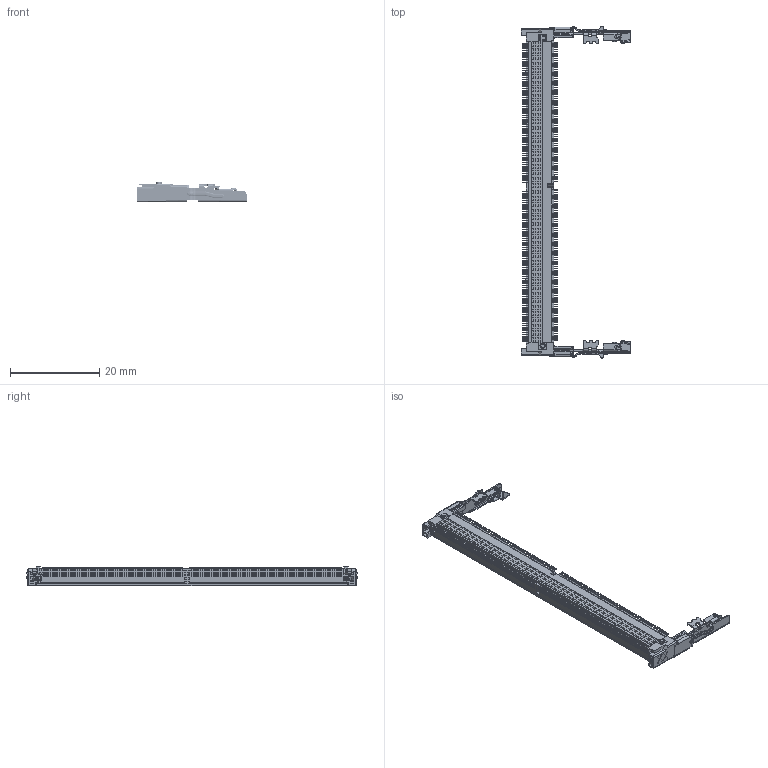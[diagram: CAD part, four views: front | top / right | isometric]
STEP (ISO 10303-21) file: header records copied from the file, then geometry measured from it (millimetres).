
FILE_DESCRIPTION((''),'2;1');
FILE_NAME('D5ARX-262XX-XX40X','2021-12-14T16:16:19',('MichaelSun'),(''),'CREO PARAMETRIC BY PTC INC, 2016390','CREO PARAMETRIC BY PTC INC, 2016390','');
FILE_SCHEMA(('AUTOMOTIVE_DESIGN { 1 0 10303 214 1 1 1 1 }'));
Products named in the file (1): D5ARX-262XX-XX40X
Bounding box: 24.41 x 74.22 x 4.45 mm (x, y, z)
Volume: 1247 mm3; surface area: 3289.3 mm2
Topology: 1 solids, 1 shells, 9787 faces, 27517 edges, 18267 vertices
Faces by surface type: plane 6269, cylinder 3226, bspline 130, cone 82, torus 78, sphere 2
Entity records: 379107 total; most frequent: CARTESIAN_POINT 60735, ORIENTED_EDGE 55030, DIRECTION 53501, EDGE_CURVE 27515, VECTOR 20255, LINE 20255, VERTEX_POINT 18267, AXIS2_PLACEMENT_3D 16623
